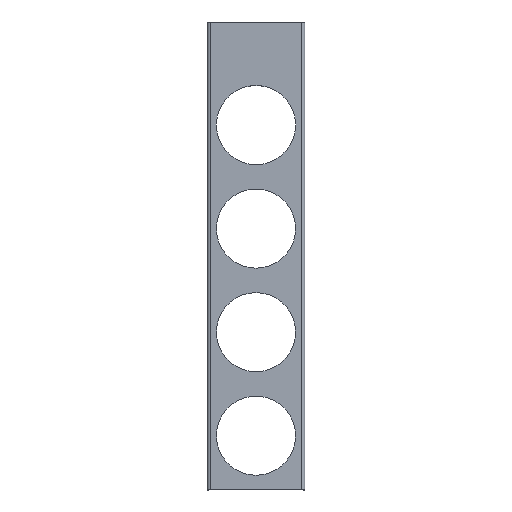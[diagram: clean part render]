
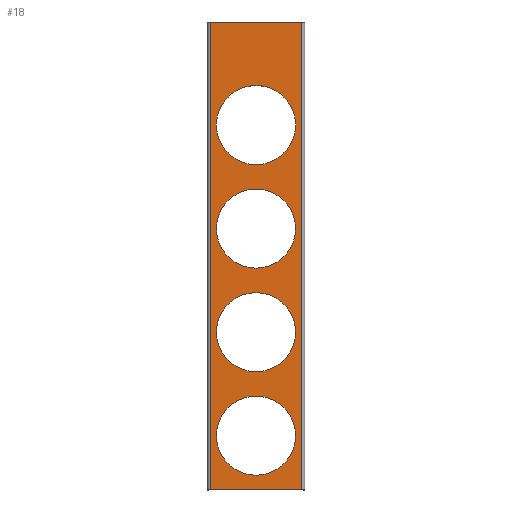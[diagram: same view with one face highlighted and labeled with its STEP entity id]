
A CAD part, top view. The second image highlights one B-rep face of the part: STEP entity #18.
In plain terms, the highlighted planar face has unit normal (0, 0, 1).
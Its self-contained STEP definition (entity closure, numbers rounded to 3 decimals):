
#18 = ADVANCED_FACE ( 'NONE', ( #589, #595, #583, #590, #578 ), #347, .T. ) ;
#38 = AXIS2_PLACEMENT_3D ( 'NONE', #113, #104, #103 ) ;
#39 = AXIS2_PLACEMENT_3D ( 'NONE', #117, #110, #109 ) ;
#40 = AXIS2_PLACEMENT_3D ( 'NONE', #124, #112, #111 ) ;
#44 = AXIS2_PLACEMENT_3D ( 'NONE', #145, #143, #142 ) ;
#47 = AXIS2_PLACEMENT_3D ( 'NONE', #155, #147, #146 ) ;
#54 = AXIS2_PLACEMENT_3D ( 'NONE', #210, #209, #207 ) ;
#59 = AXIS2_PLACEMENT_3D ( 'NONE', #228, #227, #226 ) ;
#61 = AXIS2_PLACEMENT_3D ( 'NONE', #231, #230, #229 ) ;
#66 = VERTEX_POINT ( 'NONE', #295 ) ;
#67 = VERTEX_POINT ( 'NONE', #294 ) ;
#73 = VERTEX_POINT ( 'NONE', #297 ) ;
#77 = VERTEX_POINT ( 'NONE', #285 ) ;
#87 = VERTEX_POINT ( 'NONE', #276 ) ;
#103 = DIRECTION ( 'NONE',  ( 1., 0., 0. ) ) ;
#104 = DIRECTION ( 'NONE',  ( 0., 0., -1. ) ) ;
#109 = DIRECTION ( 'NONE',  ( 1., 0., 0. ) ) ;
#110 = DIRECTION ( 'NONE',  ( 0., 0., -1. ) ) ;
#111 = DIRECTION ( 'NONE',  ( 1., 0., 0. ) ) ;
#112 = DIRECTION ( 'NONE',  ( 0., 0., -1. ) ) ;
#113 = CARTESIAN_POINT ( 'NONE',  ( 0., 373.5, 40. ) ) ;
#117 = CARTESIAN_POINT ( 'NONE',  ( 0., 161.5, 40. ) ) ;
#124 = CARTESIAN_POINT ( 'NONE',  ( 0., 55.5, 40. ) ) ;
#142 = DIRECTION ( 'NONE',  ( 1., 0., 0. ) ) ;
#143 = DIRECTION ( 'NONE',  ( 0., 0., -1. ) ) ;
#145 = CARTESIAN_POINT ( 'NONE',  ( 0., 267.5, 40. ) ) ;
#146 = DIRECTION ( 'NONE',  ( 1., 0., 0. ) ) ;
#147 = DIRECTION ( 'NONE',  ( 0., 0., -1. ) ) ;
#155 = CARTESIAN_POINT ( 'NONE',  ( 0., 267.5, 40. ) ) ;
#181 = VERTEX_POINT ( 'NONE', #275 ) ;
#187 = VERTEX_POINT ( 'NONE', #274 ) ;
#188 = DIRECTION ( 'NONE',  ( 1., 0., 0. ) ) ;
#189 = CARTESIAN_POINT ( 'NONE',  ( 39., 479., 40. ) ) ;
#207 = DIRECTION ( 'NONE',  ( 1., 0., 0. ) ) ;
#208 = VERTEX_POINT ( 'NONE', #272 ) ;
#209 = DIRECTION ( 'NONE',  ( 0., 0., -1. ) ) ;
#210 = CARTESIAN_POINT ( 'NONE',  ( 0., 55.5, 40. ) ) ;
#221 = DIRECTION ( 'NONE',  ( 0., 1., 0. ) ) ;
#222 = CARTESIAN_POINT ( 'NONE',  ( 47., 479., 40. ) ) ;
#225 = DIRECTION ( 'NONE',  ( 0., 1., 0. ) ) ;
#226 = DIRECTION ( 'NONE',  ( 1., 0., 0. ) ) ;
#227 = DIRECTION ( 'NONE',  ( 0., 0., -1. ) ) ;
#228 = CARTESIAN_POINT ( 'NONE',  ( 0., 161.5, 40. ) ) ;
#229 = DIRECTION ( 'NONE',  ( 1., 0., 0. ) ) ;
#230 = DIRECTION ( 'NONE',  ( 0., 0., -1. ) ) ;
#231 = CARTESIAN_POINT ( 'NONE',  ( 0., 373.5, 40. ) ) ;
#233 = CARTESIAN_POINT ( 'NONE',  ( -47., 479., 40. ) ) ;
#236 = DIRECTION ( 'NONE',  ( -1., 0., 0. ) ) ;
#239 = CARTESIAN_POINT ( 'NONE',  ( -55., 0., 40. ) ) ;
#258 = CARTESIAN_POINT ( 'NONE',  ( 40.5, 267.5, 40. ) ) ;
#261 = CARTESIAN_POINT ( 'NONE',  ( 40.5, 161.5, 40. ) ) ;
#262 = CARTESIAN_POINT ( 'NONE',  ( 47., 0., 40. ) ) ;
#270 = CARTESIAN_POINT ( 'NONE',  ( 40.5, 373.5, 40. ) ) ;
#272 = CARTESIAN_POINT ( 'NONE',  ( -47., 0., 40. ) ) ;
#274 = CARTESIAN_POINT ( 'NONE',  ( -40.5, 373.5, 40. ) ) ;
#275 = CARTESIAN_POINT ( 'NONE',  ( 40.5, 55.5, 40. ) ) ;
#276 = CARTESIAN_POINT ( 'NONE',  ( 47., 479., 40. ) ) ;
#285 = CARTESIAN_POINT ( 'NONE',  ( -47., 479., 40. ) ) ;
#294 = CARTESIAN_POINT ( 'NONE',  ( -40.5, 55.5, 40. ) ) ;
#295 = CARTESIAN_POINT ( 'NONE',  ( -40.5, 267.5, 40. ) ) ;
#297 = CARTESIAN_POINT ( 'NONE',  ( -40.5, 161.5, 40. ) ) ;
#308 = VERTEX_POINT ( 'NONE', #270 ) ;
#330 = DIRECTION ( 'NONE',  ( 0., -1., 0. ) ) ;
#331 = DIRECTION ( 'NONE',  ( 0., 0., 1. ) ) ;
#336 = CARTESIAN_POINT ( 'NONE',  ( -4., 239.5, 40. ) ) ;
#347 = PLANE ( 'NONE',  #469 ) ;
#350 = VERTEX_POINT ( 'NONE', #262 ) ;
#351 = VERTEX_POINT ( 'NONE', #261 ) ;
#386 = VERTEX_POINT ( 'NONE', #258 ) ;
#400 = EDGE_CURVE ( 'NONE', #350, #208, #743, .T. ) ;
#407 = EDGE_CURVE ( 'NONE', #308, #187, #730, .T. ) ;
#410 = EDGE_CURVE ( 'NONE', #351, #73, #726, .T. ) ;
#411 = EDGE_CURVE ( 'NONE', #208, #77, #728, .T. ) ;
#412 = EDGE_CURVE ( 'NONE', #350, #87, #725, .T. ) ;
#417 = EDGE_CURVE ( 'NONE', #67, #181, #714, .T. ) ;
#424 = EDGE_CURVE ( 'NONE', #77, #87, #707, .T. ) ;
#443 = EDGE_CURVE ( 'NONE', #66, #386, #675, .T. ) ;
#445 = EDGE_CURVE ( 'NONE', #386, #66, #673, .T. ) ;
#461 = EDGE_CURVE ( 'NONE', #181, #67, #650, .T. ) ;
#462 = EDGE_CURVE ( 'NONE', #73, #351, #648, .T. ) ;
#467 = EDGE_CURVE ( 'NONE', #187, #308, #642, .T. ) ;
#469 = AXIS2_PLACEMENT_3D ( 'NONE', #336, #331, #330 ) ;
#484 = ORIENTED_EDGE ( 'NONE', *, *, #410, .T. ) ;
#487 = EDGE_LOOP ( 'NONE', ( #502, #514 ) ) ;
#502 = ORIENTED_EDGE ( 'NONE', *, *, #461, .T. ) ;
#508 = ORIENTED_EDGE ( 'NONE', *, *, #467, .T. ) ;
#512 = ORIENTED_EDGE ( 'NONE', *, *, #445, .T. ) ;
#514 = ORIENTED_EDGE ( 'NONE', *, *, #417, .T. ) ;
#530 = EDGE_LOOP ( 'NONE', ( #512, #764 ) ) ;
#538 = EDGE_LOOP ( 'NONE', ( #634, #567, #761, #541 ) ) ;
#541 = ORIENTED_EDGE ( 'NONE', *, *, #411, .F. ) ;
#567 = ORIENTED_EDGE ( 'NONE', *, *, #412, .T. ) ;
#578 = FACE_BOUND ( 'NONE', #588, .T. ) ;
#583 = FACE_BOUND ( 'NONE', #530, .T. ) ;
#588 = EDGE_LOOP ( 'NONE', ( #484, #622 ) ) ;
#589 = FACE_OUTER_BOUND ( 'NONE', #538, .T. ) ;
#590 = FACE_BOUND ( 'NONE', #593, .T. ) ;
#593 = EDGE_LOOP ( 'NONE', ( #629, #508 ) ) ;
#595 = FACE_BOUND ( 'NONE', #487, .T. ) ;
#622 = ORIENTED_EDGE ( 'NONE', *, *, #462, .T. ) ;
#629 = ORIENTED_EDGE ( 'NONE', *, *, #407, .T. ) ;
#634 = ORIENTED_EDGE ( 'NONE', *, *, #400, .F. ) ;
#642 = CIRCLE ( 'NONE', #38, 40.5 ) ;
#648 = CIRCLE ( 'NONE', #39, 40.5 ) ;
#650 = CIRCLE ( 'NONE', #40, 40.5 ) ;
#673 = CIRCLE ( 'NONE', #44, 40.5 ) ;
#675 = CIRCLE ( 'NONE', #47, 40.5 ) ;
#707 = LINE ( 'NONE', #189, #708 ) ;
#708 = VECTOR ( 'NONE', #188, 1000. ) ;
#714 = CIRCLE ( 'NONE', #54, 40.5 ) ;
#724 = VECTOR ( 'NONE', #221, 1000. ) ;
#725 = LINE ( 'NONE', #222, #724 ) ;
#726 = CIRCLE ( 'NONE', #59, 40.5 ) ;
#728 = LINE ( 'NONE', #233, #732 ) ;
#730 = CIRCLE ( 'NONE', #61, 40.5 ) ;
#732 = VECTOR ( 'NONE', #225, 1000. ) ;
#737 = VECTOR ( 'NONE', #236, 1000. ) ;
#743 = LINE ( 'NONE', #239, #737 ) ;
#761 = ORIENTED_EDGE ( 'NONE', *, *, #424, .F. ) ;
#764 = ORIENTED_EDGE ( 'NONE', *, *, #443, .T. ) ;
